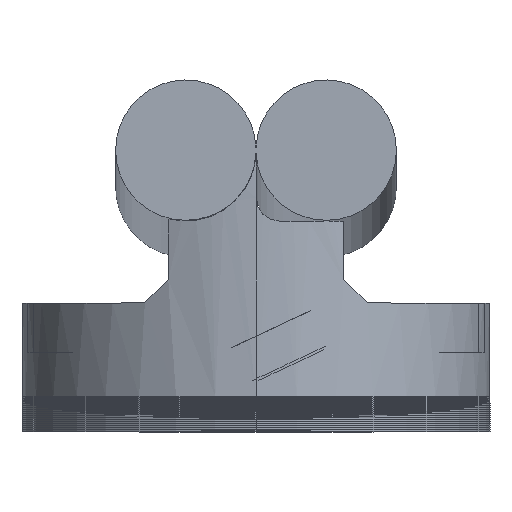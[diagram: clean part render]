
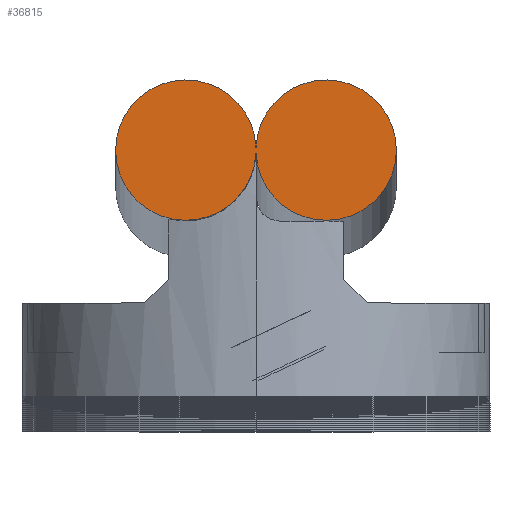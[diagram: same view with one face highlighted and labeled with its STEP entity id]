
A CAD part, top view. The second image highlights one B-rep face of the part: STEP entity #36815.
In plain terms, the highlighted planar face has unit normal (0, 0, 1).
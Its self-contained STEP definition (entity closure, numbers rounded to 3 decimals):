
#8659 = CARTESIAN_POINT ( 'NONE',  ( -0.005, 20.75, 0. ) ) ;
#8669 = DIRECTION ( 'NONE',  ( 1., 0., 0. ) ) ;
#8670 = VECTOR ( 'NONE', #8669, 1000. ) ;
#8671 = CARTESIAN_POINT ( 'NONE',  ( -0.005, 20.75, 0. ) ) ;
#8672 = LINE ( 'NONE', #8671, #8670 ) ;
#8691 = CARTESIAN_POINT ( 'NONE',  ( -0.005, 21.25, 0. ) ) ;
#8692 = DIRECTION ( 'NONE',  ( -1., 0., 0. ) ) ;
#8693 = DIRECTION ( 'NONE',  ( 0., 0., 1. ) ) ;
#8694 = CARTESIAN_POINT ( 'NONE',  ( -6., 21., 0. ) ) ;
#8695 = AXIS2_PLACEMENT_3D ( 'NONE', #8694, #8693, #8692 ) ;
#8696 = CIRCLE ( 'NONE', #8695, 6. ) ;
#9081 = CARTESIAN_POINT ( 'NONE',  ( 0.005, 21.25, 0. ) ) ;
#9152 = DIRECTION ( 'NONE',  ( -1., 0., 0. ) ) ;
#9153 = VECTOR ( 'NONE', #9152, 1000. ) ;
#9154 = CARTESIAN_POINT ( 'NONE',  ( -0.005, 21.25, 0. ) ) ;
#9158 = LINE ( 'NONE', #9154, #9153 ) ;
#9241 = FACE_OUTER_BOUND ( 'NONE', #36816, .T. ) ;
#9267 = DIRECTION ( 'NONE',  ( 1., 0., 0. ) ) ;
#9268 = DIRECTION ( 'NONE',  ( 0., 0., 1. ) ) ;
#9269 = CARTESIAN_POINT ( 'NONE',  ( 6., 21., 0. ) ) ;
#9270 = AXIS2_PLACEMENT_3D ( 'NONE', #9269, #9268, #9267 ) ;
#9271 = PLANE ( 'NONE',  #9270 ) ;
#9331 = DIRECTION ( 'NONE',  ( 1., 0., 0. ) ) ;
#9332 = DIRECTION ( 'NONE',  ( 0., 0., 1. ) ) ;
#9333 = CARTESIAN_POINT ( 'NONE',  ( 6., 21., 0. ) ) ;
#9334 = AXIS2_PLACEMENT_3D ( 'NONE', #9333, #9332, #9331 ) ;
#9335 = CIRCLE ( 'NONE', #9334, 6. ) ;
#31518 = VERTEX_POINT ( 'NONE', #55255 ) ;
#31520 = EDGE_CURVE ( 'NONE', #31521, #31518, #55254, .T. ) ;
#31521 = VERTEX_POINT ( 'NONE', #55249 ) ;
#36420 = VERTEX_POINT ( 'NONE', #8659 ) ;
#36438 = EDGE_CURVE ( 'NONE', #36420, #31521, #8672, .T. ) ;
#36452 = EDGE_CURVE ( 'NONE', #36453, #36420, #8696, .T. ) ;
#36453 = VERTEX_POINT ( 'NONE', #8691 ) ;
#36721 = VERTEX_POINT ( 'NONE', #9081 ) ;
#36759 = EDGE_CURVE ( 'NONE', #36721, #36453, #9158, .T. ) ;
#36815 = ADVANCED_FACE ( 'NONE', ( #9241 ), #9271, .T. ) ;
#36816 = EDGE_LOOP ( 'NONE', ( #36818, #36821, #36823, #36825, #36827 ) ) ;
#36818 = ORIENTED_EDGE ( 'NONE', *, *, #31520, .T. ) ;
#36821 = ORIENTED_EDGE ( 'NONE', *, *, #36831, .T. ) ;
#36823 = ORIENTED_EDGE ( 'NONE', *, *, #36759, .T. ) ;
#36825 = ORIENTED_EDGE ( 'NONE', *, *, #36452, .T. ) ;
#36827 = ORIENTED_EDGE ( 'NONE', *, *, #36438, .T. ) ;
#36831 = EDGE_CURVE ( 'NONE', #31518, #36721, #9335, .T. ) ;
#55249 = CARTESIAN_POINT ( 'NONE',  ( 0.005, 20.75, 0. ) ) ;
#55250 = DIRECTION ( 'NONE',  ( 1., 0., 0. ) ) ;
#55251 = DIRECTION ( 'NONE',  ( 0., 0., 1. ) ) ;
#55252 = CARTESIAN_POINT ( 'NONE',  ( 6., 21., 0. ) ) ;
#55253 = AXIS2_PLACEMENT_3D ( 'NONE', #55252, #55251, #55250 ) ;
#55254 = CIRCLE ( 'NONE', #55253, 6. ) ;
#55255 = CARTESIAN_POINT ( 'NONE',  ( 12., 21., 0. ) ) ;
